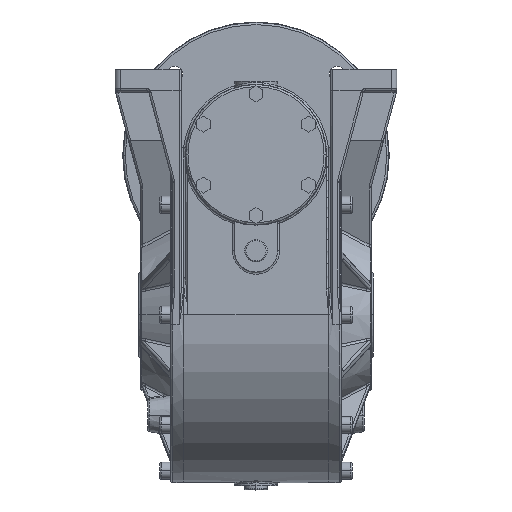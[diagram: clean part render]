
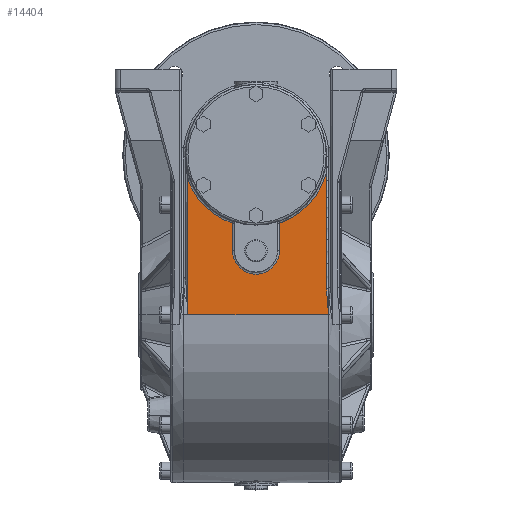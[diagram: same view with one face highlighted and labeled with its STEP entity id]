
A CAD part, top view. The second image highlights one B-rep face of the part: STEP entity #14404.
In plain terms, the highlighted planar face has unit normal (0, 0, 1).
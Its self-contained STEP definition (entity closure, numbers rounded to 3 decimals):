
#14125 = VERTEX_POINT ( 'NONE', #81629 ) ;
#14181 = EDGE_CURVE ( 'NONE', #14125, #14182, #81747, .T. ) ;
#14182 = VERTEX_POINT ( 'NONE', #81807 ) ;
#14349 = EDGE_CURVE ( 'NONE', #14350, #14351, #82126, .T. ) ;
#14350 = VERTEX_POINT ( 'NONE', #82122 ) ;
#14351 = VERTEX_POINT ( 'NONE', #82121 ) ;
#14378 = ORIENTED_EDGE ( 'NONE', *, *, #14379, .T. ) ;
#14379 = EDGE_CURVE ( 'NONE', #14350, #14380, #82229, .T. ) ;
#14380 = VERTEX_POINT ( 'NONE', #82225 ) ;
#14381 = ORIENTED_EDGE ( 'NONE', *, *, #14382, .T. ) ;
#14382 = EDGE_CURVE ( 'NONE', #14380, #14383, #82224, .T. ) ;
#14383 = VERTEX_POINT ( 'NONE', #82220 ) ;
#14384 = ORIENTED_EDGE ( 'NONE', *, *, #14385, .T. ) ;
#14385 = EDGE_CURVE ( 'NONE', #14383, #14386, #82219, .T. ) ;
#14386 = VERTEX_POINT ( 'NONE', #82214 ) ;
#14387 = ORIENTED_EDGE ( 'NONE', *, *, #14388, .T. ) ;
#14388 = EDGE_CURVE ( 'NONE', #14386, #14389, #82280, .T. ) ;
#14389 = VERTEX_POINT ( 'NONE', #82276 ) ;
#14390 = ORIENTED_EDGE ( 'NONE', *, *, #14391, .T. ) ;
#14391 = EDGE_CURVE ( 'NONE', #14389, #14392, #82275, .T. ) ;
#14392 = VERTEX_POINT ( 'NONE', #82270 ) ;
#14404 = ADVANCED_FACE ( 'NONE', ( #82248 ), #82311, .F. ) ;
#14405 = EDGE_LOOP ( 'NONE', ( #14406, #14378, #14381, #14384, #14387, #14390, #14445, #14447, #14448 ) ) ;
#14406 = ORIENTED_EDGE ( 'NONE', *, *, #14349, .F. ) ;
#14445 = ORIENTED_EDGE ( 'NONE', *, *, #14446, .T. ) ;
#14446 = EDGE_CURVE ( 'NONE', #14392, #14182, #82365, .T. ) ;
#14447 = ORIENTED_EDGE ( 'NONE', *, *, #14181, .F. ) ;
#14448 = ORIENTED_EDGE ( 'NONE', *, *, #14449, .T. ) ;
#14449 = EDGE_CURVE ( 'NONE', #14125, #14351, #82411, .T. ) ;
#81629 = CARTESIAN_POINT ( 'NONE',  ( 68., 0., 157. ) ) ;
#81746 = CARTESIAN_POINT ( 'NONE',  ( 66., 0., 157. ) ) ;
#81747 = LINE ( 'NONE', #81746, #81809 ) ;
#81807 = CARTESIAN_POINT ( 'NONE',  ( -64., 0., 157. ) ) ;
#81808 = DIRECTION ( 'NONE',  ( -1., 0., 0. ) ) ;
#81809 = VECTOR ( 'NONE', #81808, 1000. ) ;
#82121 = CARTESIAN_POINT ( 'NONE',  ( 66., 25.14, 157. ) ) ;
#82122 = CARTESIAN_POINT ( 'NONE',  ( 66., 133.629, 157. ) ) ;
#82123 = DIRECTION ( 'NONE',  ( 0., -1., 0. ) ) ;
#82124 = VECTOR ( 'NONE', #82123, 1000. ) ;
#82125 = CARTESIAN_POINT ( 'NONE',  ( 66., 0., 157. ) ) ;
#82126 = LINE ( 'NONE', #82125, #82124 ) ;
#82214 = CARTESIAN_POINT ( 'NONE',  ( -22., 60., 157. ) ) ;
#82215 = DIRECTION ( 'NONE',  ( -1., 0., 0. ) ) ;
#82216 = DIRECTION ( 'NONE',  ( 0., 0., -1. ) ) ;
#82217 = CARTESIAN_POINT ( 'NONE',  ( 0., 60., 157. ) ) ;
#82218 = AXIS2_PLACEMENT_3D ( 'NONE', #82217, #82216, #82215 ) ;
#82219 = CIRCLE ( 'NONE', #82218, 22. ) ;
#82220 = CARTESIAN_POINT ( 'NONE',  ( 22., 60., 157. ) ) ;
#82221 = DIRECTION ( 'NONE',  ( 0., -1., 0. ) ) ;
#82222 = VECTOR ( 'NONE', #82221, 1000. ) ;
#82223 = CARTESIAN_POINT ( 'NONE',  ( 22., 60., 157. ) ) ;
#82224 = LINE ( 'NONE', #82223, #82222 ) ;
#82225 = CARTESIAN_POINT ( 'NONE',  ( 22., 85.657, 157. ) ) ;
#82226 = DIRECTION ( 'NONE',  ( -1., 0., 0. ) ) ;
#82227 = DIRECTION ( 'NONE',  ( 0., 0., -1. ) ) ;
#82228 = AXIS2_PLACEMENT_3D ( 'NONE', #82234, #82227, #82226 ) ;
#82229 = CIRCLE ( 'NONE', #82228, 68. ) ;
#82234 = CARTESIAN_POINT ( 'NONE',  ( 0., 150., 157. ) ) ;
#82248 = FACE_OUTER_BOUND ( 'NONE', #14405, .T. ) ;
#82270 = CARTESIAN_POINT ( 'NONE',  ( -64., 127.022, 157. ) ) ;
#82271 = DIRECTION ( 'NONE',  ( -1., 0., 0. ) ) ;
#82272 = DIRECTION ( 'NONE',  ( 0., 0., -1. ) ) ;
#82273 = CARTESIAN_POINT ( 'NONE',  ( 0., 150., 157. ) ) ;
#82274 = AXIS2_PLACEMENT_3D ( 'NONE', #82273, #82272, #82271 ) ;
#82275 = CIRCLE ( 'NONE', #82274, 68. ) ;
#82276 = CARTESIAN_POINT ( 'NONE',  ( -22., 85.657, 157. ) ) ;
#82277 = DIRECTION ( 'NONE',  ( 0., 1., 0. ) ) ;
#82278 = VECTOR ( 'NONE', #82277, 1000. ) ;
#82279 = CARTESIAN_POINT ( 'NONE',  ( -22., 87.103, 157. ) ) ;
#82280 = LINE ( 'NONE', #82279, #82278 ) ;
#82307 = DIRECTION ( 'NONE',  ( -1., 0., 0. ) ) ;
#82308 = DIRECTION ( 'NONE',  ( 0., 0., -1. ) ) ;
#82309 = CARTESIAN_POINT ( 'NONE',  ( 66., 0., 157. ) ) ;
#82310 = AXIS2_PLACEMENT_3D ( 'NONE', #82309, #82308, #82307 ) ;
#82311 = PLANE ( 'NONE',  #82310 ) ;
#82362 = DIRECTION ( 'NONE',  ( 0., -1., 0. ) ) ;
#82363 = VECTOR ( 'NONE', #82362, 1000. ) ;
#82364 = CARTESIAN_POINT ( 'NONE',  ( -64., 0., 157. ) ) ;
#82365 = LINE ( 'NONE', #82364, #82363 ) ;
#82401 = CARTESIAN_POINT ( 'NONE',  ( 66., 25.14, 157. ) ) ;
#82402 = CARTESIAN_POINT ( 'NONE',  ( 66., 23.036, 157. ) ) ;
#82403 = CARTESIAN_POINT ( 'NONE',  ( 66.08, 20.932, 157. ) ) ;
#82404 = CARTESIAN_POINT ( 'NONE',  ( 66.323, 16.734, 157. ) ) ;
#82405 = CARTESIAN_POINT ( 'NONE',  ( 66.488, 14.638, 157. ) ) ;
#82406 = CARTESIAN_POINT ( 'NONE',  ( 67.055, 8.358, 157. ) ) ;
#82407 = CARTESIAN_POINT ( 'NONE',  ( 67.528, 4.179, 157. ) ) ;
#82408 = CARTESIAN_POINT ( 'NONE',  ( 68., 0., 157. ) ) ;
#82411 = B_SPLINE_CURVE_WITH_KNOTS ( 'NONE', 3,
 ( #82408, #82407, #82406, #82405, #82404, #82403, #82402, #82401 ),
 .UNSPECIFIED., .F., .F.,
 ( 4, 2, 2, 4 ),
 ( 0., 0.013, 0.019, 0.025 ),
 .UNSPECIFIED. ) ;
